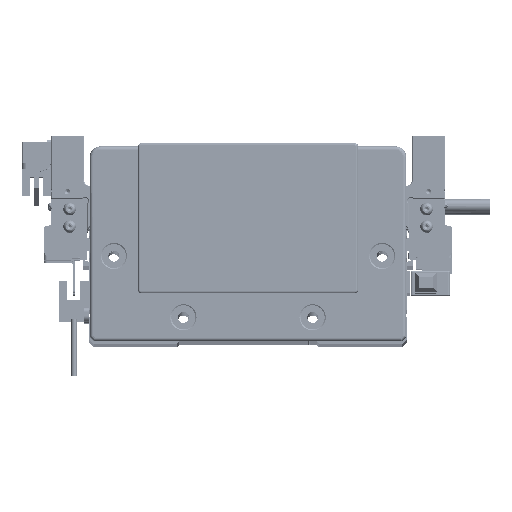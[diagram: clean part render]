
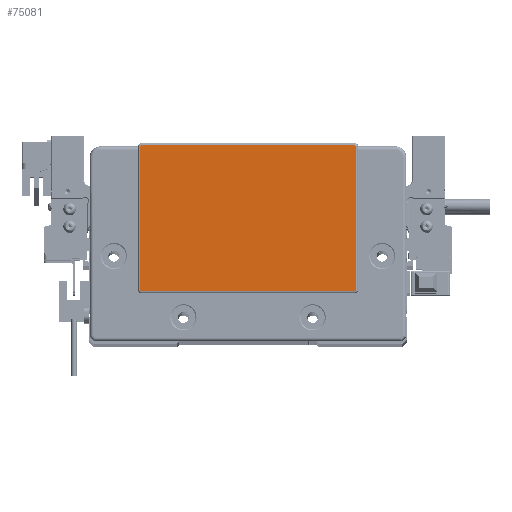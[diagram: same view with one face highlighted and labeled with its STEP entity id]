
A CAD part, top view. The second image highlights one B-rep face of the part: STEP entity #75081.
In plain terms, the highlighted planar face has unit normal (0, 0, 1) as drawn and (0, 0, -1) by its records, which use the part's own axes.
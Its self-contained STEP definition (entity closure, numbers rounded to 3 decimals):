
#709 = EDGE_CURVE ( 'NONE', #92498, #2427, #77646, .T. ) ;
#2295 = EDGE_CURVE ( 'NONE', #2427, #6377, #56460, .T. ) ;
#2427 = VERTEX_POINT ( 'NONE', #50099 ) ;
#2702 = LINE ( 'NONE', #34225, #42767 ) ;
#6377 = VERTEX_POINT ( 'NONE', #92577 ) ;
#6806 = DIRECTION ( 'NONE',  ( 0., 1., 0. ) ) ;
#7055 = ORIENTED_EDGE ( 'NONE', *, *, #2295, .T. ) ;
#7245 = DIRECTION ( 'NONE',  ( -1., 0., 0. ) ) ;
#8339 = CARTESIAN_POINT ( 'NONE',  ( -49.25, 43.8, -2. ) ) ;
#11891 = AXIS2_PLACEMENT_3D ( 'NONE', #39800, #85894, #62582 ) ;
#15297 = ORIENTED_EDGE ( 'NONE', *, *, #69703, .T. ) ;
#18931 = CARTESIAN_POINT ( 'NONE',  ( 48.75, 44.3, -2. ) ) ;
#22323 = CARTESIAN_POINT ( 'NONE',  ( 48.75, -21.8, -2. ) ) ;
#23629 = CARTESIAN_POINT ( 'NONE',  ( -48.75, -21.8, -2. ) ) ;
#23892 = DIRECTION ( 'NONE',  ( -1., 0., 0. ) ) ;
#33307 = FACE_OUTER_BOUND ( 'NONE', #40292, .T. ) ;
#33841 = DIRECTION ( 'NONE',  ( -1., 0., 0. ) ) ;
#34225 = CARTESIAN_POINT ( 'NONE',  ( 48.75, 44.3, -2. ) ) ;
#36602 = VECTOR ( 'NONE', #7245, 1000. ) ;
#37814 = DIRECTION ( 'NONE',  ( 0., 0., -1. ) ) ;
#39333 = DIRECTION ( 'NONE',  ( -1., 0., 0. ) ) ;
#39800 = CARTESIAN_POINT ( 'NONE',  ( -48.75, 43.8, -2. ) ) ;
#40292 = EDGE_LOOP ( 'NONE', ( #63068, #101915, #54840, #41394, #88142, #7055, #15297, #88094 ) ) ;
#41267 = AXIS2_PLACEMENT_3D ( 'NONE', #22323, #37814, #39333 ) ;
#41394 = ORIENTED_EDGE ( 'NONE', *, *, #51280, .T. ) ;
#42767 = VECTOR ( 'NONE', #73035, 1000. ) ;
#44082 = VECTOR ( 'NONE', #75650, 1000. ) ;
#45471 = LINE ( 'NONE', #77551, #36602 ) ;
#45586 = LINE ( 'NONE', #61098, #44082 ) ;
#46099 = CARTESIAN_POINT ( 'NONE',  ( 49.25, -21.8, -2. ) ) ;
#47355 = DIRECTION ( 'NONE',  ( 0., 0., -1. ) ) ;
#50099 = CARTESIAN_POINT ( 'NONE',  ( -49.25, 43.8, -2. ) ) ;
#51280 = EDGE_CURVE ( 'NONE', #62642, #92498, #68159, .T. ) ;
#51777 = EDGE_CURVE ( 'NONE', #62418, #63690, #63062, .T. ) ;
#52045 = EDGE_CURVE ( 'NONE', #73467, #62642, #45471, .T. ) ;
#53296 = AXIS2_PLACEMENT_3D ( 'NONE', #23629, #47355, #71700 ) ;
#54487 = CIRCLE ( 'NONE', #41267, 0.5 ) ;
#54840 = ORIENTED_EDGE ( 'NONE', *, *, #52045, .T. ) ;
#54961 = VERTEX_POINT ( 'NONE', #46099 ) ;
#56460 = CIRCLE ( 'NONE', #11891, 0.5 ) ;
#57117 = PLANE ( 'NONE',  #69817 ) ;
#61098 = CARTESIAN_POINT ( 'NONE',  ( 49.25, -21.8, -2. ) ) ;
#62304 = CARTESIAN_POINT ( 'NONE',  ( 49.25, 43.8, -2. ) ) ;
#62418 = VERTEX_POINT ( 'NONE', #18931 ) ;
#62582 = DIRECTION ( 'NONE',  ( -1., 0., 0. ) ) ;
#62642 = VERTEX_POINT ( 'NONE', #86622 ) ;
#63062 = CIRCLE ( 'NONE', #79597, 0.5 ) ;
#63068 = ORIENTED_EDGE ( 'NONE', *, *, #94008, .T. ) ;
#63690 = VERTEX_POINT ( 'NONE', #62304 ) ;
#63863 = DIRECTION ( 'NONE',  ( 0., 0., -1. ) ) ;
#68159 = CIRCLE ( 'NONE', #53296, 0.5 ) ;
#69703 = EDGE_CURVE ( 'NONE', #6377, #62418, #2702, .T. ) ;
#69817 = AXIS2_PLACEMENT_3D ( 'NONE', #87658, #63863, #33841 ) ;
#71700 = DIRECTION ( 'NONE',  ( -1., 0., 0. ) ) ;
#73035 = DIRECTION ( 'NONE',  ( 1., 0., 0. ) ) ;
#73467 = VERTEX_POINT ( 'NONE', #88295 ) ;
#75081 = ADVANCED_FACE ( 'NONE', ( #33307 ), #57117, .T. ) ;
#75650 = DIRECTION ( 'NONE',  ( 0., -1., 0. ) ) ;
#77551 = CARTESIAN_POINT ( 'NONE',  ( -48.75, -22.3, -2. ) ) ;
#77646 = LINE ( 'NONE', #8339, #87257 ) ;
#79597 = AXIS2_PLACEMENT_3D ( 'NONE', #80243, #95758, #23892 ) ;
#80243 = CARTESIAN_POINT ( 'NONE',  ( 48.75, 43.8, -2. ) ) ;
#85894 = DIRECTION ( 'NONE',  ( 0., 0., -1. ) ) ;
#86622 = CARTESIAN_POINT ( 'NONE',  ( -48.75, -22.3, -2. ) ) ;
#87257 = VECTOR ( 'NONE', #6806, 1000. ) ;
#87658 = CARTESIAN_POINT ( 'NONE',  ( 0., 0., -2. ) ) ;
#88094 = ORIENTED_EDGE ( 'NONE', *, *, #51777, .T. ) ;
#88142 = ORIENTED_EDGE ( 'NONE', *, *, #709, .T. ) ;
#88295 = CARTESIAN_POINT ( 'NONE',  ( 48.75, -22.3, -2. ) ) ;
#92498 = VERTEX_POINT ( 'NONE', #98002 ) ;
#92577 = CARTESIAN_POINT ( 'NONE',  ( -48.75, 44.3, -2. ) ) ;
#94008 = EDGE_CURVE ( 'NONE', #63690, #54961, #45586, .T. ) ;
#95758 = DIRECTION ( 'NONE',  ( 0., 0., -1. ) ) ;
#98002 = CARTESIAN_POINT ( 'NONE',  ( -49.25, -21.8, -2. ) ) ;
#98613 = EDGE_CURVE ( 'NONE', #54961, #73467, #54487, .T. ) ;
#101915 = ORIENTED_EDGE ( 'NONE', *, *, #98613, .T. ) ;
